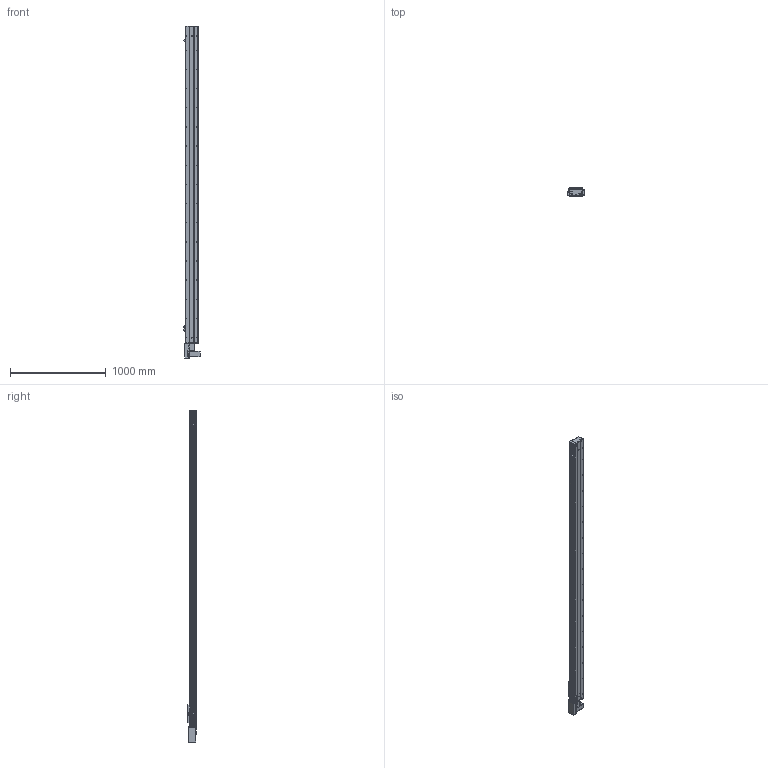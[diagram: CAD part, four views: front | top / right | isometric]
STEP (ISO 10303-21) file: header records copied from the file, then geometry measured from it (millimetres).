
FILE_DESCRIPTION (( 'STEP AP203' ), '1' );
FILE_NAME ('Y135CB-D90-S3000-BR-P400W.STEP', '2020-02-18T03:20:53', ( '微软用户' ), ( '微软中国' ), 'SwSTEP 2.0', 'SolidWorks 2017', '' );
FILE_SCHEMA (( 'CONFIG_CONTROL_DESIGN' ));
Length unit declared in the file: millimetre
Products named in the file (18): Y135C-陔俋离換覜結え-; 0B-埴倛裔啣; 5C--俋欶; 0B-源倛裔啣; C-雄赽釱--; 0B-萇儂楊擘啣; Y10B--々湍喘謫眊--666; san松下电机400不带刹车----; Y135CB-耜裔; Y135CB-D90-S3000-BR-P400W; 5CB --掛极耜裔啣-; 135CB---遴掛极.-; C-詩湍揤踡え-陔; 35CB---喘謫眊楊擘啣; 135CB--詩湍-CE; Y10B-耜蚾蟀諉啣----; Y100-135俋离換覜ん--; Y俋欶BR----
Assembly tree (21 placements, depth 2):
  Y135CB-D90-S3000-BR-P400W
    Y135CB-耜裔
    135CB---遴掛极.-
    35CB---喘謫眊楊擘啣
    Y10B-耜蚾蟀諉啣----
    Y俋欶BR----
    0B-埴倛裔啣
    0B-源倛裔啣
    0B-萇儂楊擘啣
    san松下电机400不带刹车----
    5CB --掛极耜裔啣-  x2
    C-詩湍揤踡え-陔  x2
    135CB--詩湍-CE
    Y100-135俋离換覜ん--  x3
    Y135C-陔俋离換覜結え-
    5C--俋欶
    C-雄赽釱--
    Y10B--々湍喘謫眊--666
Bounding box: 167.5 x 91 x 3464.5 mm (x, y, z)
Volume: 9581124.8 mm3; surface area: 3802370 mm2
Topology: 21 solids, 21 shells, 985 faces, 2707 edges, 1794 vertices
Faces by surface type: cylinder 511, plane 458, cone 16
Entity records: 31361 total; most frequent: CARTESIAN_POINT 5252, DIRECTION 5211, ORIENTED_EDGE 4890, EDGE_CURVE 2445, AXIS2_PLACEMENT_3D 1913, VERTEX_POINT 1622, VECTOR 1385, LINE 1385
